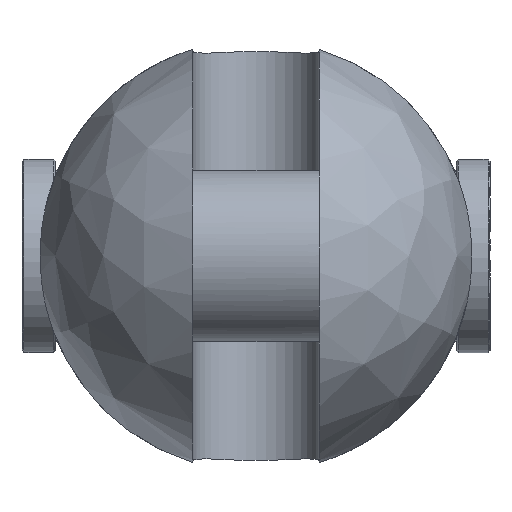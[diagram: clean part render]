
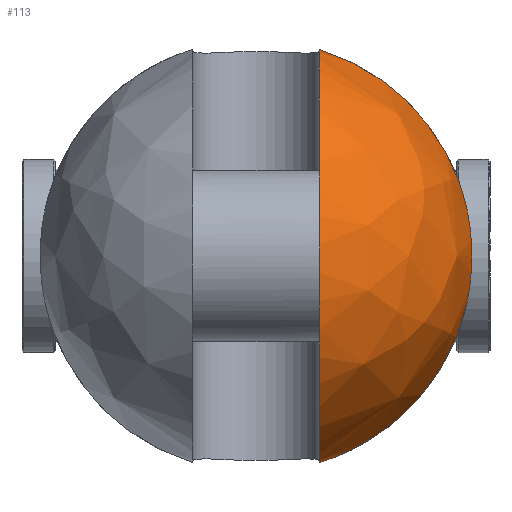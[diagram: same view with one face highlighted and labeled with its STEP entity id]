
A CAD part, left-side view. The second image highlights one B-rep face of the part: STEP entity #113.
In plain terms, the highlighted free-form (B-spline) face has degree [2, 2] with [9, 5] control points.
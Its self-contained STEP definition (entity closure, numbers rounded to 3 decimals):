
#113=ADVANCED_FACE('',(#200),#1527,.T.);
#200=FACE_OUTER_BOUND('',#299,.T.);
#299=EDGE_LOOP('',(#741,#742,#743,#744));
#741=ORIENTED_EDGE('',*,*,#999,.T.);
#742=ORIENTED_EDGE('',*,*,#996,.F.);
#743=ORIENTED_EDGE('',*,*,#1015,.T.);
#744=ORIENTED_EDGE('',*,*,#988,.F.);
#988=EDGE_CURVE('',#1418,#1419,#1249,.T.);
#996=EDGE_CURVE('',#1426,#1427,#1250,.T.);
#999=EDGE_CURVE('',#1418,#1427,#1252,.T.);
#1015=EDGE_CURVE('',#1426,#1419,#1123,.T.);
#1123=B_SPLINE_CURVE_WITH_KNOTS('',3,(#3624,#3625,#3626,#3627,#3628,#3629,
#3630,#3631,#3632,#3633,#3634,#3635,#3636,#3637),.UNSPECIFIED.,.F.,.F.,
(4,2,2,2,2,2,4),(0.,0.91,6.934,12.958,
18.982,25.007,25.916),.UNSPECIFIED.);
#1249=(
BOUNDED_CURVE()
B_SPLINE_CURVE(2,(#3476,#3477,#3478),.UNSPECIFIED.,.F.,.F.)
B_SPLINE_CURVE_WITH_KNOTS((3,3),(0.,61.388),.UNSPECIFIED.)
CURVE()
GEOMETRIC_REPRESENTATION_ITEM()
RATIONAL_B_SPLINE_CURVE((1.,0.863,1.))
REPRESENTATION_ITEM('')
);
#1250=(
BOUNDED_CURVE()
B_SPLINE_CURVE(2,(#3533,#3534,#3535),.UNSPECIFIED.,.F.,.F.)
B_SPLINE_CURVE_WITH_KNOTS((3,3),(0.,61.388),.UNSPECIFIED.)
CURVE()
GEOMETRIC_REPRESENTATION_ITEM()
RATIONAL_B_SPLINE_CURVE((1.,0.863,1.))
REPRESENTATION_ITEM('')
);
#1252=(
BOUNDED_CURVE()
B_SPLINE_CURVE(2,(#3541,#3542,#3543,#3544,#3545),.UNSPECIFIED.,.F.,.F.)
B_SPLINE_CURVE_WITH_KNOTS((3,2,3),(-174.21,-87.105,
0.),.UNSPECIFIED.)
CURVE()
GEOMETRIC_REPRESENTATION_ITEM()
RATIONAL_B_SPLINE_CURVE((1.,0.707,1.,0.707,1.))
REPRESENTATION_ITEM('')
);
#1418=VERTEX_POINT('',#3274);
#1419=VERTEX_POINT('',#3275);
#1426=VERTEX_POINT('',#3282);
#1427=VERTEX_POINT('',#3283);
#1527=(
BOUNDED_SURFACE()
B_SPLINE_SURFACE(2,2,((#3146,#3147,#3148,#3149,#3150),(#3151,#3152,#3153,
#3154,#3155),(#3156,#3157,#3158,#3159,#3160),(#3161,#3162,#3163,#3164,#3165),
(#3166,#3167,#3168,#3169,#3170),(#3171,#3172,#3173,#3174,#3175),(#3176,
#3177,#3178,#3179,#3180),(#3181,#3182,#3183,#3184,#3185),(#3186,#3187,#3188,
#3189,#3190)),.UNSPECIFIED.,.T.,.F.,.F.)
B_SPLINE_SURFACE_WITH_KNOTS((3,2,2,2,3),(3,2,3),(0.,91.106,182.212,
273.319,364.425),(0.,91.106,182.212),
 .UNSPECIFIED.)
GEOMETRIC_REPRESENTATION_ITEM()
RATIONAL_B_SPLINE_SURFACE(((1.,0.707,1.,0.707,1.),
(0.707,0.5,0.707,0.5,0.707),(1.,0.707,
1.,0.707,1.),(0.707,0.5,0.707,0.5,0.707),
(1.,0.707,1.,0.707,1.),(0.707,0.5,0.707,
0.5,0.707),(1.,0.707,1.,0.707,1.),(0.707,
0.5,0.707,0.5,0.707),(1.,0.707,1.,0.707,
1.)))
REPRESENTATION_ITEM('')
SURFACE()
);
#3146=CARTESIAN_POINT('',(-82.,0.,0.));
#3147=CARTESIAN_POINT('',(-82.,58.,0.));
#3148=CARTESIAN_POINT('',(-24.,58.,0.));
#3149=CARTESIAN_POINT('',(34.,58.,0.));
#3150=CARTESIAN_POINT('',(34.,0.,0.));
#3151=CARTESIAN_POINT('',(-82.,0.,0.));
#3152=CARTESIAN_POINT('',(-82.,58.,58.));
#3153=CARTESIAN_POINT('',(-24.,58.,58.));
#3154=CARTESIAN_POINT('',(34.,58.,58.));
#3155=CARTESIAN_POINT('',(34.,0.,0.));
#3156=CARTESIAN_POINT('',(-82.,0.,0.));
#3157=CARTESIAN_POINT('',(-82.,0.,58.));
#3158=CARTESIAN_POINT('',(-24.,0.,58.));
#3159=CARTESIAN_POINT('',(34.,0.,58.));
#3160=CARTESIAN_POINT('',(34.,0.,0.));
#3161=CARTESIAN_POINT('',(-82.,0.,0.));
#3162=CARTESIAN_POINT('',(-82.,-58.,58.));
#3163=CARTESIAN_POINT('',(-24.,-58.,58.));
#3164=CARTESIAN_POINT('',(34.,-58.,58.));
#3165=CARTESIAN_POINT('',(34.,0.,0.));
#3166=CARTESIAN_POINT('',(-82.,0.,0.));
#3167=CARTESIAN_POINT('',(-82.,-58.,0.));
#3168=CARTESIAN_POINT('',(-24.,-58.,0.));
#3169=CARTESIAN_POINT('',(34.,-58.,0.));
#3170=CARTESIAN_POINT('',(34.,0.,0.));
#3171=CARTESIAN_POINT('',(-82.,0.,0.));
#3172=CARTESIAN_POINT('',(-82.,-58.,-58.));
#3173=CARTESIAN_POINT('',(-24.,-58.,-58.));
#3174=CARTESIAN_POINT('',(34.,-58.,-58.));
#3175=CARTESIAN_POINT('',(34.,0.,0.));
#3176=CARTESIAN_POINT('',(-82.,0.,0.));
#3177=CARTESIAN_POINT('',(-82.,0.,-58.));
#3178=CARTESIAN_POINT('',(-24.,0.,-58.));
#3179=CARTESIAN_POINT('',(34.,0.,-58.));
#3180=CARTESIAN_POINT('',(34.,0.,0.));
#3181=CARTESIAN_POINT('',(-82.,0.,0.));
#3182=CARTESIAN_POINT('',(-82.,58.,-58.));
#3183=CARTESIAN_POINT('',(-24.,58.,-58.));
#3184=CARTESIAN_POINT('',(34.,58.,-58.));
#3185=CARTESIAN_POINT('',(34.,0.,0.));
#3186=CARTESIAN_POINT('',(-82.,0.,0.));
#3187=CARTESIAN_POINT('',(-82.,58.,0.));
#3188=CARTESIAN_POINT('',(-24.,58.,0.));
#3189=CARTESIAN_POINT('',(34.,58.,0.));
#3190=CARTESIAN_POINT('',(34.,0.,0.));
#3274=CARTESIAN_POINT('',(-24.,-17.,55.453));
#3275=CARTESIAN_POINT('',(-24.,-56.666,12.369));
#3282=CARTESIAN_POINT('',(-24.,-56.666,-12.369));
#3283=CARTESIAN_POINT('',(-24.,-17.,-55.453));
#3476=CARTESIAN_POINT('',(-24.,-17.,55.453));
#3477=CARTESIAN_POINT('',(-24.,-49.431,45.51));
#3478=CARTESIAN_POINT('',(-24.,-56.666,12.369));
#3533=CARTESIAN_POINT('',(-24.,-56.666,-12.369));
#3534=CARTESIAN_POINT('',(-24.,-49.431,-45.51));
#3535=CARTESIAN_POINT('',(-24.,-17.,-55.453));
#3541=CARTESIAN_POINT('',(-24.,-17.,55.453));
#3542=CARTESIAN_POINT('',(-79.453,-17.,55.453));
#3543=CARTESIAN_POINT('',(-79.453,-17.,0.));
#3544=CARTESIAN_POINT('',(-79.453,-17.,-55.453));
#3545=CARTESIAN_POINT('',(-24.,-17.,-55.453));
#3624=CARTESIAN_POINT('',(-24.,-56.666,-12.369));
#3625=CARTESIAN_POINT('',(-24.138,-56.724,-12.101));
#3626=CARTESIAN_POINT('',(-24.272,-56.781,-11.831));
#3627=CARTESIAN_POINT('',(-25.257,-57.197,-9.75));
#3628=CARTESIAN_POINT('',(-25.916,-57.472,-7.833));
#3629=CARTESIAN_POINT('',(-26.788,-57.835,-3.927));
#3630=CARTESIAN_POINT('',(-27.,-57.922,-1.939));
#3631=CARTESIAN_POINT('',(-27.,-57.922,1.939));
#3632=CARTESIAN_POINT('',(-26.788,-57.835,3.927));
#3633=CARTESIAN_POINT('',(-25.916,-57.472,7.833));
#3634=CARTESIAN_POINT('',(-25.257,-57.197,9.75));
#3635=CARTESIAN_POINT('',(-24.272,-56.781,11.831));
#3636=CARTESIAN_POINT('',(-24.138,-56.724,12.101));
#3637=CARTESIAN_POINT('',(-24.,-56.666,12.369));
